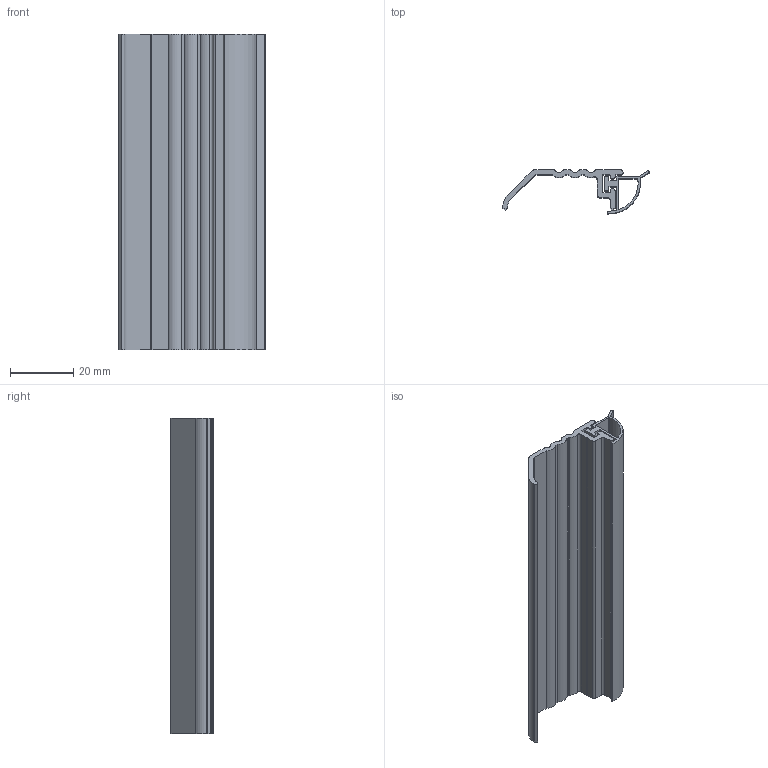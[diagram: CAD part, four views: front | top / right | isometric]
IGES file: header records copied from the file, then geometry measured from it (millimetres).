
Global section: file name: No Iges File Name specified; native system: Autodesk Inventor 2012; preprocessor: AutoDesk Inventor Iges Exporter R2012; author: anna.b; date: 20130718.110454; units: millimetre
Bounding box: 46.38 x 13.8 x 100 mm (x, y, z)
Volume: 13535 mm3; surface area: 21168.7 mm2
Topology: 2 solids, 2 shells, 99 faces, 285 edges, 190 vertices
Faces by surface type: plane 51, revolution 27, cylinder 21
